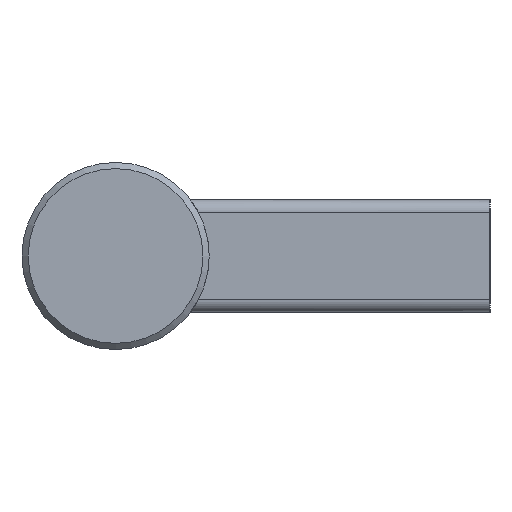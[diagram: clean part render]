
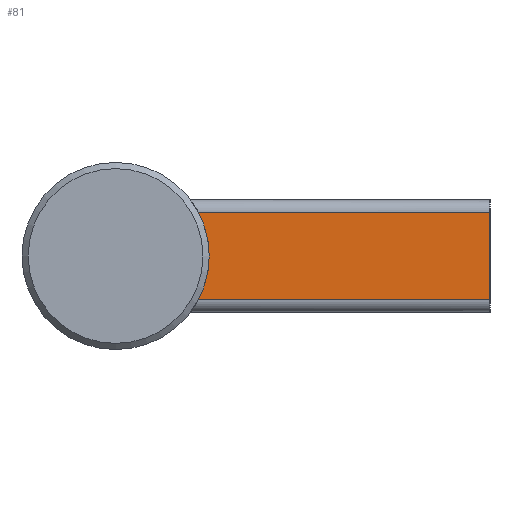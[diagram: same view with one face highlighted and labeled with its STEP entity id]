
A CAD part, left-side view. The second image highlights one B-rep face of the part: STEP entity #81.
In plain terms, the highlighted planar face has unit normal (-1, 0, 0).
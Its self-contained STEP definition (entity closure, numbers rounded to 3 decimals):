
#81 = ADVANCED_FACE( '', ( #121 ), #122, .F. );
#121 = FACE_OUTER_BOUND( '', #186, .T. );
#122 = PLANE( '', #187 );
#186 = EDGE_LOOP( '', ( #280, #281, #282, #283 ) );
#187 = AXIS2_PLACEMENT_3D( '', #284, #285, #286 );
#280 = ORIENTED_EDGE( '', *, *, #453, .F. );
#281 = ORIENTED_EDGE( '', *, *, #444, .T. );
#282 = ORIENTED_EDGE( '', *, *, #455, .T. );
#283 = ORIENTED_EDGE( '', *, *, #456, .T. );
#284 = CARTESIAN_POINT( '', ( -190., 60., -7. ) );
#285 = DIRECTION( '', ( 1., 0., 0. ) );
#286 = DIRECTION( '', ( 0., 0., -1. ) );
#444 = EDGE_CURVE( '', #517, #514, #518, .T. );
#453 = EDGE_CURVE( '', #517, #534, #535, .T. );
#455 = EDGE_CURVE( '', #514, #537, #538, .T. );
#456 = EDGE_CURVE( '', #537, #534, #539, .T. );
#514 = VERTEX_POINT( '', #668 );
#517 = VERTEX_POINT( '', #686 );
#518 = CIRCLE( '', #687, 15. );
#534 = VERTEX_POINT( '', #747 );
#535 = LINE( '', #748, #749 );
#537 = VERTEX_POINT( '', #751 );
#538 = LINE( '', #752, #753 );
#539 = LINE( '', #754, #755 );
#668 = CARTESIAN_POINT( '', ( -190., 46.734, -7. ) );
#686 = CARTESIAN_POINT( '', ( -190., 46.734, 7. ) );
#687 = AXIS2_PLACEMENT_3D( '', #844, #845, #846 );
#747 = CARTESIAN_POINT( '', ( -190., 0., 7. ) );
#748 = CARTESIAN_POINT( '', ( -190., 60., 7. ) );
#749 = VECTOR( '', #856, 1000. );
#751 = CARTESIAN_POINT( '', ( -190., 0., -7. ) );
#752 = CARTESIAN_POINT( '', ( -190., 60., -7. ) );
#753 = VECTOR( '', #860, 1000. );
#754 = CARTESIAN_POINT( '', ( -190., 0., -7. ) );
#755 = VECTOR( '', #861, 1000. );
#844 = CARTESIAN_POINT( '', ( -190., 60., 0. ) );
#845 = DIRECTION( '', ( 1., 0., 0. ) );
#846 = DIRECTION( '', ( 0., 0., -1. ) );
#856 = DIRECTION( '', ( 0., -1., 0. ) );
#860 = DIRECTION( '', ( 0., -1., 0. ) );
#861 = DIRECTION( '', ( 0., 0., 1. ) );
